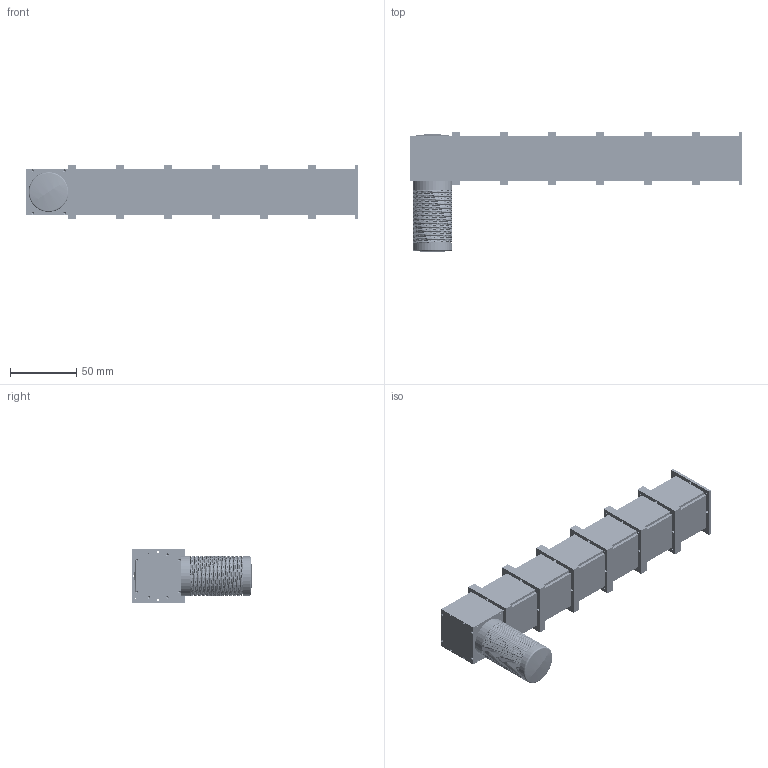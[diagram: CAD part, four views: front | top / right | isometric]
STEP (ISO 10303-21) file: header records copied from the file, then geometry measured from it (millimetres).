
FILE_DESCRIPTION (( 'STEP AP214' ), '1' );
FILE_NAME ('Assiem_guida_rocchetto.STEP', '2016-02-27T15:52:31', ( '' ), ( '' ), 'SwSTEP 2.0', 'SolidWorks 2012', '' );
FILE_SCHEMA (( 'AUTOMOTIVE_DESIGN' ));
Length unit declared in the file: millimetre
Products named in the file (21): G_6SLDPRT; G_2; Assiem_guida_rocchetto; vite M1 x 5; G_5; G9; G12; G11; G_4; G_2_prima; G_3; G_2_pla; G_1; G_6_UPSLDPRT; assieme guida; assieme cella; G10; assieme cella_uscita; G_7_2SLDPRT; G8; AssiemeRocchetto_2
Assembly tree (51 placements, depth 4):
  Assiem_guida_rocchetto
    AssiemeRocchetto_2
      G_7_2SLDPRT
      G_6_UPSLDPRT
      G_6SLDPRT
      G_5  x4
      G_4
      G12
      G_3
    assieme guida
      assieme cella  x5
        G11
        G_2_pla
        G_2
      G_1  x7
      assieme cella_uscita
        G11  x4
        G_2_pla
      vite M1 x 5  x4
    G10  x4
    G9  x2
    G8
    vite M1 x 5  x3
    G_2_prima
Bounding box: 250 x 91.05 x 40 mm (x, y, z)
Volume: 102813.3 mm3; surface area: 139287.4 mm2
Topology: 67 solids, 67 shells, 4748 faces, 12389 edges, 8090 vertices
Faces by surface type: plane 1545, bspline 1273, cylinder 1026, cone 892, sphere 8, torus 4
Entity records: 59263 total; most frequent: CARTESIAN_POINT 35135, ORIENTED_EDGE 5168, DIRECTION 4222, EDGE_CURVE 2584, VERTEX_POINT 1674, AXIS2_PLACEMENT_3D 1454, VECTOR 1314, LINE 1314
